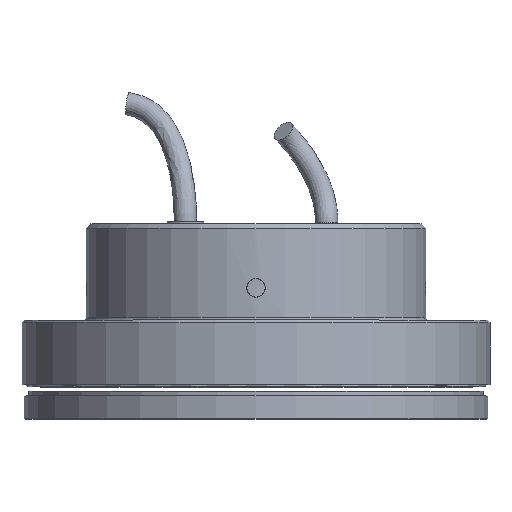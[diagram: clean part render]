
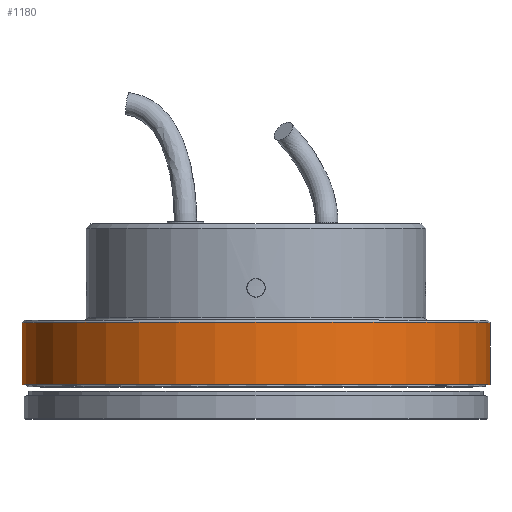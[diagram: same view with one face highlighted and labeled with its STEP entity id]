
A CAD part, top view. The second image highlights one B-rep face of the part: STEP entity #1180.
In plain terms, the highlighted cylindrical face has radius 51 mm (diameter 102 mm), a full revolution.
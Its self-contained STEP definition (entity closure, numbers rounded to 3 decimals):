
#1180=ADVANCED_FACE('',(#7810,#7812),#7814,.T.);
#7810=FACE_OUTER_BOUND('',#7811,.T.);
#7811=EDGE_LOOP('',(#15893));
#7812=FACE_OUTER_BOUND('',#7813,.T.);
#7813=EDGE_LOOP('',(#15894));
#7814=CYLINDRICAL_SURFACE('',#7815,51.);
#7815=AXIS2_PLACEMENT_3D('',#7816,#7817,#7818);
#7816=CARTESIAN_POINT('',(0.,-35.,0.));
#7817=DIRECTION('',(0.,1.,0.));
#7818=DIRECTION('',(0.,0.,1.));
#15893=ORIENTED_EDGE('',*,*,#19593,.F.);
#15894=ORIENTED_EDGE('',*,*,#19772,.T.);
#19593=EDGE_CURVE('',#21711,#21711,#21712,.T.);
#19772=EDGE_CURVE('',#22007,#22007,#22008,.T.);
#21711=VERTEX_POINT('',#25048);
#21712=CIRCLE('',#25049,51.);
#22007=VERTEX_POINT('',#25742);
#22008=CIRCLE('',#25743,51.);
#25048=CARTESIAN_POINT('',(0.,-21.5,51.));
#25049=AXIS2_PLACEMENT_3D('',#25050,#25051,#25052);
#25050=CARTESIAN_POINT('',(0.,-21.5,0.));
#25051=DIRECTION('',(0.,1.,0.));
#25052=DIRECTION('',(0.,0.,1.));
#25742=CARTESIAN_POINT('',(0.,-35.,51.));
#25743=AXIS2_PLACEMENT_3D('',#25744,#25745,#25746);
#25744=CARTESIAN_POINT('',(0.,-35.,0.));
#25745=DIRECTION('',(0.,1.,0.));
#25746=DIRECTION('',(0.,0.,1.));
